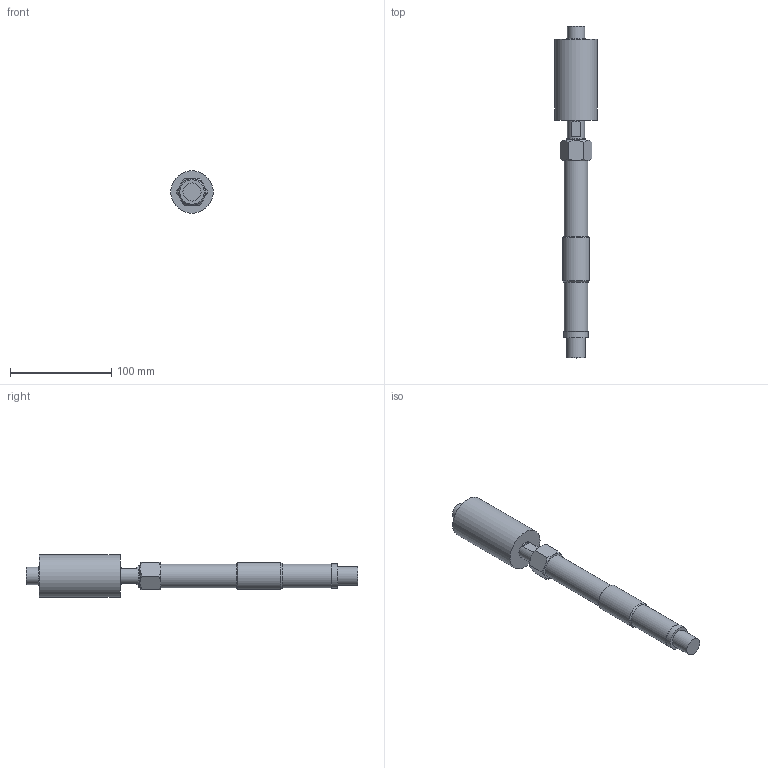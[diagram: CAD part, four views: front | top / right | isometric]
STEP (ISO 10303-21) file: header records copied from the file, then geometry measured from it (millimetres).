
FILE_DESCRIPTION (( 'STEP AP203' ), '1' );
FILE_NAME ('YICZ100PHLB-1(0).STEP', '2023-08-10T01:53:19', ( '' ), ( '' ), 'SwSTEP 2.0', 'SolidWorks 2021', '' );
FILE_SCHEMA (( 'CONFIG_CONTROL_DESIGN' ));
Length unit declared in the file: millimetre
Products named in the file (1): YICZ100PHLB-1(0)
Bounding box: 42 x 328 x 42 mm (x, y, z)
Volume: 211584.1 mm3; surface area: 53504.4 mm2
Topology: 1 solids, 1 shells, 66 faces, 151 edges, 99 vertices
Faces by surface type: plane 32, cylinder 17, cone 16, torus 1
Full cylindrical faces by diameter (mm): 1.7 x2, 16.2 x1, 17 x3, 17.9 x1, 18 x1, 19 x1, 23.5 x2, 24 x1, 26.441 x1, 42 x1
Entity records: 1939 total; most frequent: CARTESIAN_POINT 469, DIRECTION 292, ORIENTED_EDGE 250, EDGE_CURVE 125, AXIS2_PLACEMENT_3D 124, EDGE_LOOP 102, VERTEX_POINT 93, FACE_OUTER_BOUND 81
